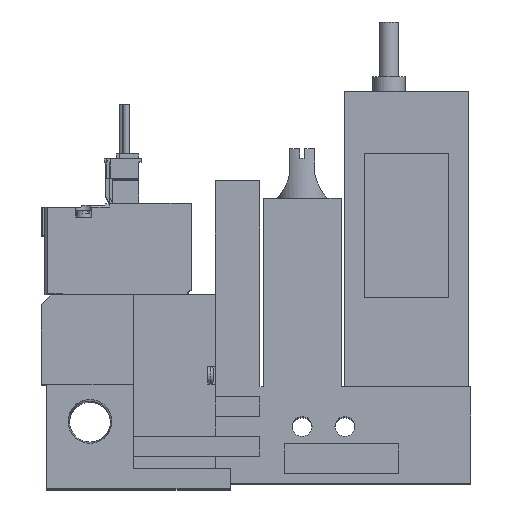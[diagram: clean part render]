
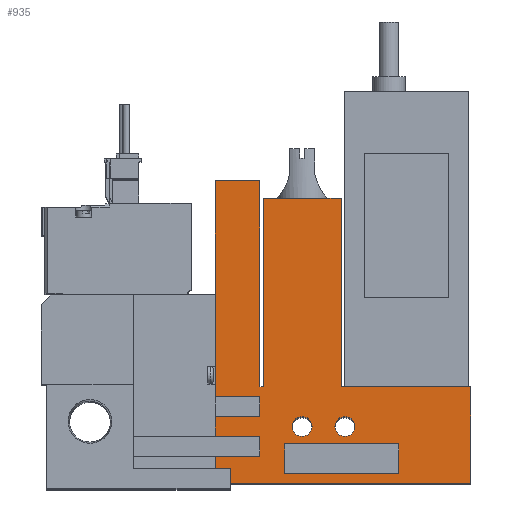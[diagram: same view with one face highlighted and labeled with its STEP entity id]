
A CAD part, top view. The second image highlights one B-rep face of the part: STEP entity #935.
In plain terms, the highlighted planar face has unit normal (0, 0, 1).
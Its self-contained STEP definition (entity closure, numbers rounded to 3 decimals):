
#935=ADVANCED_FACE('',(#1871,#1872,#1873,#1874),#1875,.T.);
#1871=FACE_OUTER_BOUND('',#3101,.T.);
#1872=FACE_BOUND('',#3102,.T.);
#1873=FACE_BOUND('',#3103,.T.);
#1874=FACE_BOUND('',#3104,.T.);
#1875=PLANE('',#3105);
#3101=EDGE_LOOP('',(#6438,#6439,#6440,#6441,#6442,#6443,#6444,#6445,#6446,#6447,#6448,#6449,#6450,#6451,#6452,#6453,#6454,#6455));
#3102=EDGE_LOOP('',(#6456,#6457,#6458,#6459));
#3103=EDGE_LOOP('',(#6460));
#3104=EDGE_LOOP('',(#6461));
#3105=AXIS2_PLACEMENT_3D('',#6462,#6463,#6464);
#6438=ORIENTED_EDGE('',*,*,#8352,.T.);
#6439=ORIENTED_EDGE('',*,*,#8263,.T.);
#6440=ORIENTED_EDGE('',*,*,#8281,.T.);
#6441=ORIENTED_EDGE('',*,*,#8386,.T.);
#6442=ORIENTED_EDGE('',*,*,#8422,.T.);
#6443=ORIENTED_EDGE('',*,*,#8424,.T.);
#6444=ORIENTED_EDGE('',*,*,#8453,.T.);
#6445=ORIENTED_EDGE('',*,*,#8403,.T.);
#6446=ORIENTED_EDGE('',*,*,#8455,.T.);
#6447=ORIENTED_EDGE('',*,*,#8337,.T.);
#6448=ORIENTED_EDGE('',*,*,#8288,.T.);
#6449=ORIENTED_EDGE('',*,*,#8448,.T.);
#6450=ORIENTED_EDGE('',*,*,#8437,.T.);
#6451=ORIENTED_EDGE('',*,*,#8408,.T.);
#6452=ORIENTED_EDGE('',*,*,#8310,.T.);
#6453=ORIENTED_EDGE('',*,*,#8321,.T.);
#6454=ORIENTED_EDGE('',*,*,#8400,.T.);
#6455=ORIENTED_EDGE('',*,*,#8411,.T.);
#6456=ORIENTED_EDGE('',*,*,#8276,.T.);
#6457=ORIENTED_EDGE('',*,*,#8363,.T.);
#6458=ORIENTED_EDGE('',*,*,#8427,.T.);
#6459=ORIENTED_EDGE('',*,*,#8250,.T.);
#6460=ORIENTED_EDGE('',*,*,#8423,.T.);
#6461=ORIENTED_EDGE('',*,*,#8266,.T.);
#6462=CARTESIAN_POINT('',(0.0,0.0,10.0));
#6463=DIRECTION('',(0.0,0.0,1.0));
#6464=DIRECTION('',(1.0,0.0,0.0));
#8250=EDGE_CURVE('',#9948,#9953,#9955,.T.);
#8263=EDGE_CURVE('',#9972,#9979,#9981,.T.);
#8266=EDGE_CURVE('',#9986,#9986,#9987,.T.);
#8276=EDGE_CURVE('',#9953,#10003,#10005,.T.);
#8281=EDGE_CURVE('',#9979,#10011,#10013,.T.);
#8288=EDGE_CURVE('',#10027,#10025,#10028,.T.);
#8310=EDGE_CURVE('',#10067,#10065,#10068,.T.);
#8321=EDGE_CURVE('',#10065,#10085,#10087,.T.);
#8337=EDGE_CURVE('',#10115,#10027,#10116,.T.);
#8352=EDGE_CURVE('',#10142,#9972,#10143,.T.);
#8363=EDGE_CURVE('',#10003,#10160,#10162,.T.);
#8386=EDGE_CURVE('',#10011,#10199,#10201,.T.);
#8400=EDGE_CURVE('',#10085,#10218,#10220,.T.);
#8403=EDGE_CURVE('',#10225,#10223,#10226,.T.);
#8408=EDGE_CURVE('',#10233,#10067,#10234,.T.);
#8411=EDGE_CURVE('',#10218,#10142,#10237,.T.);
#8422=EDGE_CURVE('',#10199,#10250,#10252,.T.);
#8423=EDGE_CURVE('',#10253,#10253,#10254,.T.);
#8424=EDGE_CURVE('',#10250,#10255,#10256,.T.);
#8427=EDGE_CURVE('',#10160,#9948,#10259,.T.);
#8437=EDGE_CURVE('',#10272,#10233,#10273,.T.);
#8448=EDGE_CURVE('',#10025,#10272,#10286,.T.);
#8453=EDGE_CURVE('',#10255,#10225,#10292,.T.);
#8455=EDGE_CURVE('',#10223,#10115,#10294,.T.);
#9948=VERTEX_POINT('',#12687);
#9953=VERTEX_POINT('',#12694);
#9955=LINE('',#12697,#12698);
#9972=VERTEX_POINT('',#12723);
#9979=VERTEX_POINT('',#12733);
#9981=LINE('',#12736,#12737);
#9986=VERTEX_POINT('',#12742);
#9987=CIRCLE('',#12743,2.0);
#10003=VERTEX_POINT('',#12766);
#10005=LINE('',#12769,#12770);
#10011=VERTEX_POINT('',#12779);
#10013=LINE('',#12782,#12783);
#10025=VERTEX_POINT('',#12800);
#10027=VERTEX_POINT('',#12803);
#10028=LINE('',#12804,#12805);
#10065=VERTEX_POINT('',#12859);
#10067=VERTEX_POINT('',#12862);
#10068=LINE('',#12863,#12864);
#10085=VERTEX_POINT('',#12886);
#10087=LINE('',#12889,#12890);
#10115=VERTEX_POINT('',#12933);
#10116=LINE('',#12934,#12935);
#10142=VERTEX_POINT('',#12975);
#10143=LINE('',#12976,#12977);
#10160=VERTEX_POINT('',#13001);
#10162=LINE('',#13004,#13005);
#10199=VERTEX_POINT('',#13080);
#10201=LINE('',#13083,#13084);
#10218=VERTEX_POINT('',#13111);
#10220=LINE('',#13114,#13115);
#10223=VERTEX_POINT('',#13119);
#10225=VERTEX_POINT('',#13122);
#10226=LINE('',#13123,#13124);
#10233=VERTEX_POINT('',#13135);
#10234=LINE('',#13136,#13137);
#10237=LINE('',#13142,#13143);
#10250=VERTEX_POINT('',#13163);
#10252=LINE('',#13166,#13167);
#10253=VERTEX_POINT('',#13168);
#10254=CIRCLE('',#13169,2.0);
#10255=VERTEX_POINT('',#13170);
#10256=LINE('',#13171,#13172);
#10259=LINE('',#13177,#13178);
#10272=VERTEX_POINT('',#13199);
#10273=LINE('',#13200,#13201);
#10286=LINE('',#13223,#13224);
#10292=LINE('',#13234,#13235);
#10294=LINE('',#13238,#13239);
#12687=CARTESIAN_POINT('',(72.1,2.0,10.0));
#12694=CARTESIAN_POINT('',(49.1,2.0,10.0));
#12697=CARTESIAN_POINT('',(0.0,2.0,10.0));
#12698=VECTOR('',#15118,1.0);
#12723=CARTESIAN_POINT('',(35.1,17.5,10.0));
#12733=CARTESIAN_POINT('',(44.1,17.5,10.0));
#12736=CARTESIAN_POINT('',(0.0,17.5,10.0));
#12737=VECTOR('',#15131,1.0);
#12742=CARTESIAN_POINT('',(63.2,11.5,10.0));
#12743=AXIS2_PLACEMENT_3D('',#15138,#15139,#15140);
#12766=CARTESIAN_POINT('',(49.1,8.0,10.0));
#12769=CARTESIAN_POINT('',(49.1,0.0,10.0));
#12770=VECTOR('',#15152,1.0);
#12779=CARTESIAN_POINT('',(44.1,13.5,10.0));
#12782=CARTESIAN_POINT('',(44.1,0.0,10.0));
#12783=VECTOR('',#15157,1.0);
#12800=CARTESIAN_POINT('',(86.6,19.5,10.0));
#12803=CARTESIAN_POINT('',(86.6,0.0,10.0));
#12804=CARTESIAN_POINT('',(86.6,0.0,10.0));
#12805=VECTOR('',#15164,1.0);
#12859=CARTESIAN_POINT('',(44.75,19.5,10.0));
#12862=CARTESIAN_POINT('',(44.75,57.5,10.0));
#12863=CARTESIAN_POINT('',(44.75,57.5,10.0));
#12864=VECTOR('',#15192,1.0);
#12886=CARTESIAN_POINT('',(44.1,19.5,10.0));
#12889=CARTESIAN_POINT('',(44.75,19.5,10.0));
#12890=VECTOR('',#15211,1.0);
#12933=CARTESIAN_POINT('',(35.1,0.0,10.0));
#12934=CARTESIAN_POINT('',(18.6,0.0,10.0));
#12935=VECTOR('',#15227,1.0);
#12975=CARTESIAN_POINT('',(35.1,61.0,10.0));
#12976=CARTESIAN_POINT('',(35.1,61.0,10.0));
#12977=VECTOR('',#15242,1.0);
#13001=CARTESIAN_POINT('',(72.1,8.0,10.0));
#13004=CARTESIAN_POINT('',(0.0,8.0,10.0));
#13005=VECTOR('',#15257,1.0);
#13080=CARTESIAN_POINT('',(35.1,13.5,10.0));
#13083=CARTESIAN_POINT('',(0.0,13.5,10.0));
#13084=VECTOR('',#15289,1.0);
#13111=CARTESIAN_POINT('',(44.1,61.0,10.0));
#13114=CARTESIAN_POINT('',(44.1,19.5,10.0));
#13115=VECTOR('',#15304,1.0);
#13119=CARTESIAN_POINT('',(35.1,5.5,10.0));
#13122=CARTESIAN_POINT('',(44.1,5.5,10.0));
#13123=CARTESIAN_POINT('',(0.0,5.5,10.0));
#13124=VECTOR('',#15307,1.0);
#13135=CARTESIAN_POINT('',(60.45,57.5,10.0));
#13136=CARTESIAN_POINT('',(60.45,57.5,10.0));
#13137=VECTOR('',#15312,1.0);
#13142=CARTESIAN_POINT('',(44.1,61.0,10.0));
#13143=VECTOR('',#15315,1.0);
#13163=CARTESIAN_POINT('',(35.1,9.5,10.0));
#13166=CARTESIAN_POINT('',(35.1,0.0,10.0));
#13167=VECTOR('',#15330,1.0);
#13168=CARTESIAN_POINT('',(54.6,11.5,10.0));
#13169=AXIS2_PLACEMENT_3D('',#15331,#15332,#15333);
#13170=CARTESIAN_POINT('',(44.1,9.5,10.0));
#13171=CARTESIAN_POINT('',(0.0,9.5,10.0));
#13172=VECTOR('',#15334,1.0);
#13177=CARTESIAN_POINT('',(72.1,0.0,10.0));
#13178=VECTOR('',#15337,1.0);
#13199=CARTESIAN_POINT('',(60.45,19.5,10.0));
#13200=CARTESIAN_POINT('',(60.45,19.5,10.0));
#13201=VECTOR('',#15349,1.0);
#13223=CARTESIAN_POINT('',(86.6,19.5,10.0));
#13224=VECTOR('',#15362,1.0);
#13234=CARTESIAN_POINT('',(44.1,0.0,10.0));
#13235=VECTOR('',#15367,1.0);
#13238=CARTESIAN_POINT('',(35.1,0.0,10.0));
#13239=VECTOR('',#15369,1.0);
#15118=DIRECTION('',(-1.0,0.0,0.0));
#15131=DIRECTION('',(1.0,0.0,0.0));
#15138=CARTESIAN_POINT('',(61.2,11.5,10.0));
#15139=DIRECTION('',(0.0,0.0,-1.0));
#15140=DIRECTION('',(1.0,0.0,0.0));
#15152=DIRECTION('',(0.0,1.0,0.0));
#15157=DIRECTION('',(0.0,-1.0,0.0));
#15164=DIRECTION('',(0.0,1.0,0.0));
#15192=DIRECTION('',(0.0,-1.0,0.0));
#15211=DIRECTION('',(-1.0,0.0,0.0));
#15227=DIRECTION('',(1.0,0.0,0.0));
#15242=DIRECTION('',(0.0,-1.0,0.0));
#15257=DIRECTION('',(1.0,0.0,0.0));
#15289=DIRECTION('',(-1.0,0.0,0.0));
#15304=DIRECTION('',(0.0,1.0,0.0));
#15307=DIRECTION('',(-1.0,0.0,0.0));
#15312=DIRECTION('',(-1.0,0.0,0.0));
#15315=DIRECTION('',(-1.0,0.0,0.0));
#15330=DIRECTION('',(0.0,-1.0,0.0));
#15331=CARTESIAN_POINT('',(52.6,11.5,10.0));
#15332=DIRECTION('',(0.0,0.0,-1.0));
#15333=DIRECTION('',(1.0,0.0,0.0));
#15334=DIRECTION('',(1.0,0.0,0.0));
#15337=DIRECTION('',(0.0,-1.0,0.0));
#15349=DIRECTION('',(0.0,1.0,0.0));
#15362=DIRECTION('',(-1.0,0.0,0.0));
#15367=DIRECTION('',(0.0,-1.0,0.0));
#15369=DIRECTION('',(0.0,-1.0,0.0));
